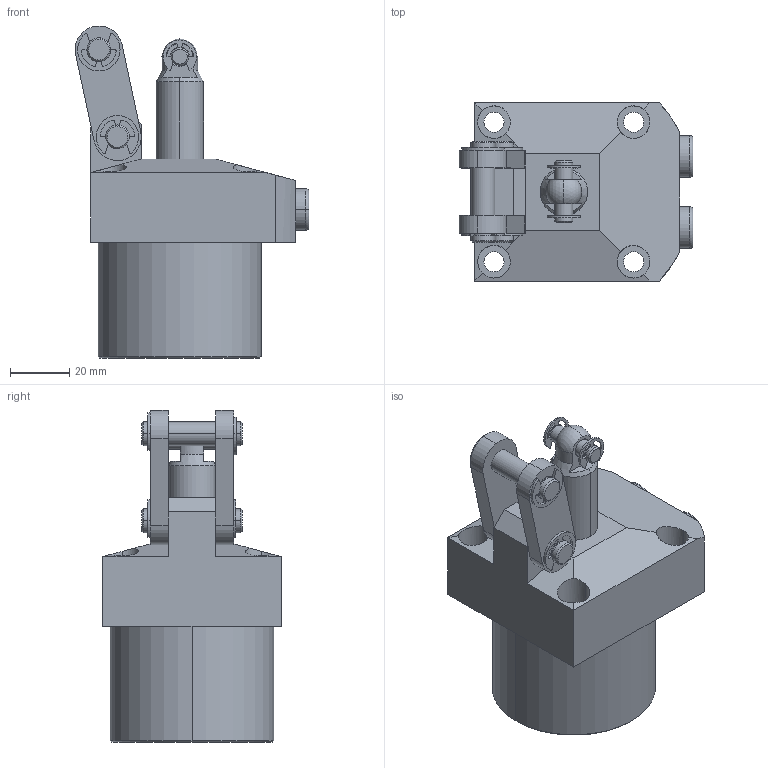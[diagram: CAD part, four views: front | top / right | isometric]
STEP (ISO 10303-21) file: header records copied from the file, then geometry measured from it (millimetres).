
FILE_DESCRIPTION (( 'STEP AP203' ), '1' );
FILE_NAME ('4171 421 C.STEP', '2017-11-21T11:55:39', ( '' ), ( '' ), 'SwSTEP 2.0', 'SolidWorks 2015', '' );
FILE_SCHEMA (( 'CONFIG_CONTROL_DESIGN' ));
Length unit declared in the file: millimetre
Products named in the file (8): pr; PIN 1; LINK; PIN 2; BODY_4171 421 C; (type e)_is_IS 3075(Part3) - 5; (type e)_is_IS 3075(Part3) - 7; 4171 421 C
Assembly tree (13 placements, depth 2):
  4171 421 C
    BODY_4171 421 C
    pr
    PIN 1
    LINK  x2
    PIN 2  x2
    (type e)_is_IS 3075(Part3) - 5  x2
    (type e)_is_IS 3075(Part3) - 7  x4
Bounding box: 78.77 x 60 x 111.83 mm (x, y, z)
Volume: 209744 mm3; surface area: 36441.3 mm2
Topology: 13 solids, 13 shells, 367 faces, 913 edges, 589 vertices
Faces by surface type: cylinder 194, plane 127, cone 40, torus 4, sphere 2
Entity records: 8046 total; most frequent: CARTESIAN_POINT 1363, DIRECTION 1282, ORIENTED_EDGE 1128, EDGE_CURVE 564, AXIS2_PLACEMENT_3D 500, VERTEX_POINT 361, VECTOR 282, LINE 282
